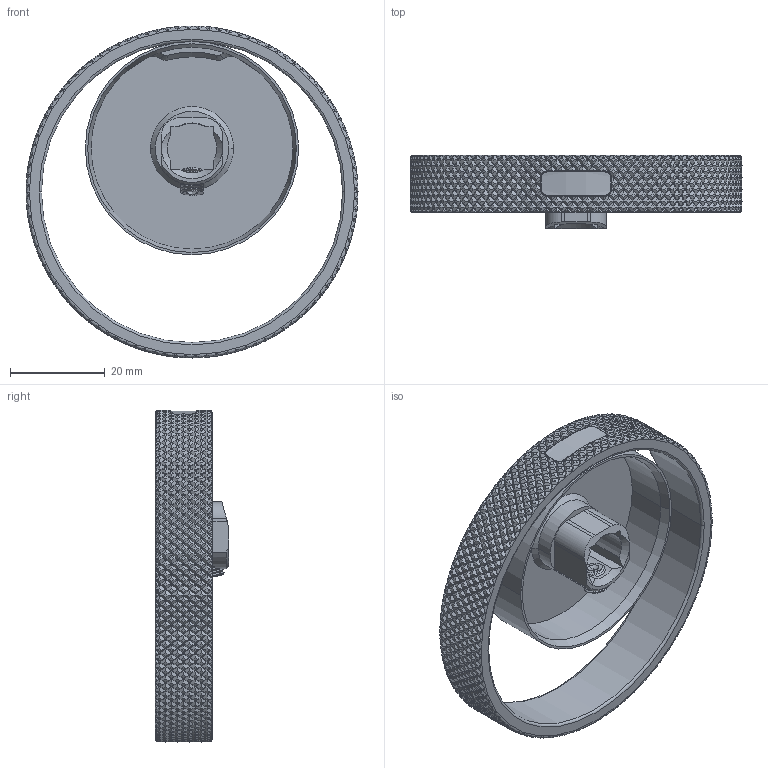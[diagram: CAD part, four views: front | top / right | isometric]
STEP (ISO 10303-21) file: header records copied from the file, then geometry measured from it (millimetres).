
FILE_DESCRIPTION((''),'2;1');
FILE_NAME('8050227_ASM','2023-04-20T',('OSSODESIGN'),(''),'PRO/ENGINEER BY PARAMETRIC TECHNOLOGY CORPORATION, 2015240','PRO/ENGINEER BY PARAMETRIC TECHNOLOGY CORPORATION, 2015240','');
FILE_SCHEMA(('CONFIG_CONTROL_DESIGN'));
Products named in the file (6): 7020308; 7020289; 7150181; 7170042; 7150001; 8050227_ASM
Assembly tree (6 placements, depth 2):
  8050227_ASM
    7020308
    7020289
    7150181  x2
    7170042
    7150001
Bounding box: 70 x 15.5 x 70 mm (x, y, z)
Volume: 12769.5 mm3; surface area: 15070.3 mm2
Topology: 6 solids, 6 shells, 5127 faces, 10934 edges, 5827 vertices
Faces by surface type: bspline 3942, cylinder 977, torus 122, plane 64, cone 20, sphere 2
Entity records: 199389 total; most frequent: CARTESIAN_POINT 120605, ORIENTED_EDGE 21796, EDGE_CURVE 10898, B_SPLINE_CURVE_WITH_KNOTS 8470, VERTEX_POINT 5805, DIRECTION 5157, EDGE_LOOP 5135, FACE_OUTER_BOUND 5111
